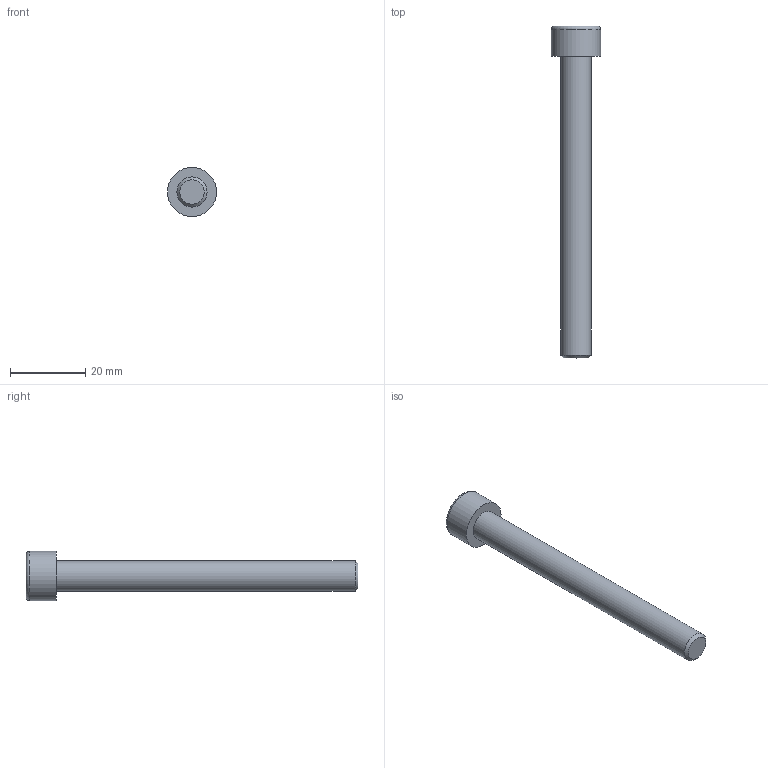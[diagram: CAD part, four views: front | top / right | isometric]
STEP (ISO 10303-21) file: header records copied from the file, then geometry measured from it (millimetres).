
FILE_DESCRIPTION(/* description */ (''),/* implementation_level */ '2;1');
FILE_NAME(/* name */ 'C:\Users\D\Documents\Inventor\各種小物\JIS\JIS B 1176 六角穴付きボルト\M8x80.stp',/* time_stamp */ '2022-05-09T18:52:21+09:00',/* author */ ('D'),/* organization */ (''),/* preprocessor_version */ 'ST-DEVELOPER v18',/* originating_system */ 'Autodesk Inventor 2020',/* authorisation */ '');
FILE_SCHEMA (('AUTOMOTIVE_DESIGN { 1 0 10303 214 3 1 1 }'));
Length unit declared in the file: millimetre
Products named in the file (1): M1.6x2.5
Bounding box: 13 x 88 x 13 mm (x, y, z)
Volume: 4921.5 mm3; surface area: 2668 mm2
Topology: 1 solids, 1 shells, 14 faces, 33 edges, 22 vertices
Faces by surface type: plane 9, cone 2, cylinder 2, torus 1
Full cylindrical faces by diameter (mm): 8 x1, 13 x1
Entity records: 435 total; most frequent: CARTESIAN_POINT 83, ORIENTED_EDGE 64, DIRECTION 64, EDGE_CURVE 32, AXIS2_PLACEMENT_3D 24, VERTEX_POINT 22, EDGE_LOOP 16, LINE 16
